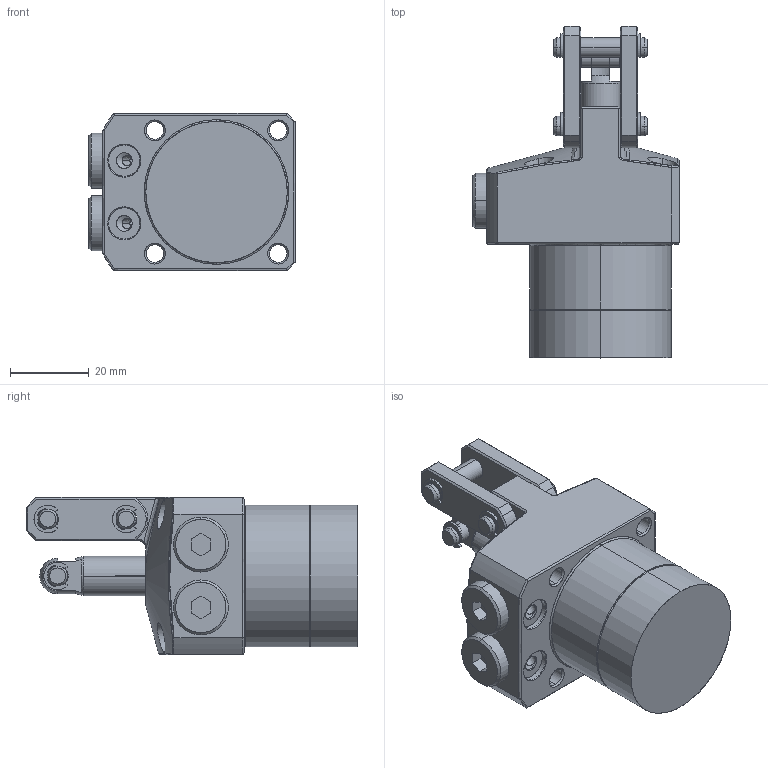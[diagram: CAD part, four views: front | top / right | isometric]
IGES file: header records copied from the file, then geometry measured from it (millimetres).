
Start section: SolidWorks IGES file using analytic representation for surfaces
Global section: file name: D:\abhilash\nijil\cylinder\LKA Series\con v lka\36\36cr\36CR PT\0402-03662.IGS; native system: SolidWorks 2010; preprocessor: SolidWorks 2010; author: nidheesh; date: 130730.103007; units: millimetre
Bounding box: 52.5 x 84.5 x 40 mm (x, y, z)
Surface area: 17575.5 mm2 (no closed solid volume)
Topology: 0 solids, 0 shells, 389 faces, 5032 edges, 5026 vertices
Faces by surface type: bspline 214, revolution 175
